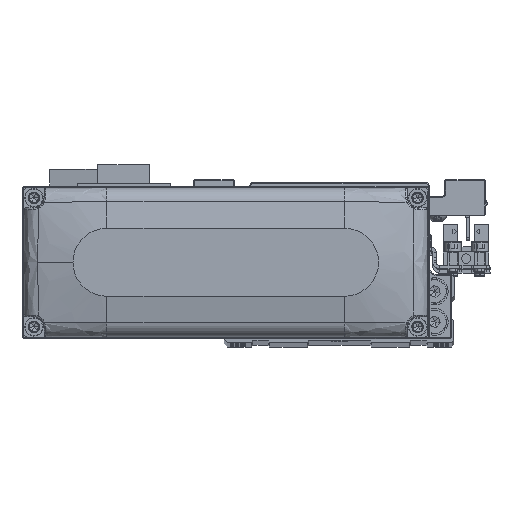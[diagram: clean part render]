
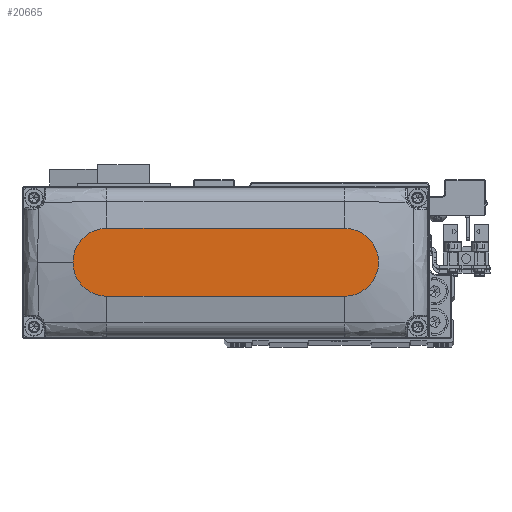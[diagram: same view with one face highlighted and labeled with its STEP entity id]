
A CAD part, top view. The second image highlights one B-rep face of the part: STEP entity #20665.
In plain terms, the highlighted planar face has unit normal (0, 0, 1).
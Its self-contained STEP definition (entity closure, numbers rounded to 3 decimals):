
#2024 = EDGE_LOOP ( 'NONE', ( #4253, #20257, #34427, #27681, #5875 ) ) ;
#2316 = AXIS2_PLACEMENT_3D ( 'NONE', #34413, #5677, #18452 ) ;
#4253 = ORIENTED_EDGE ( 'NONE', *, *, #22038, .T. ) ;
#4622 = AXIS2_PLACEMENT_3D ( 'NONE', #13061, #25867, #38631 ) ;
#5308 = VERTEX_POINT ( 'NONE', #13190 ) ;
#5677 = DIRECTION ( 'NONE',  ( 0., 0., 1. ) ) ;
#5875 = ORIENTED_EDGE ( 'NONE', *, *, #24709, .T. ) ;
#6563 = CARTESIAN_POINT ( 'NONE',  ( 0., 0., 28. ) ) ;
#6642 = DIRECTION ( 'NONE',  ( 0., 0., 1. ) ) ;
#7803 = DIRECTION ( 'NONE',  ( -1., 0., 0. ) ) ;
#8074 = VERTEX_POINT ( 'NONE', #9768 ) ;
#9768 = CARTESIAN_POINT ( 'NONE',  ( 35., 10., 28. ) ) ;
#10246 = LINE ( 'NONE', #23056, #10857 ) ;
#10553 = CARTESIAN_POINT ( 'NONE',  ( 45., 0., 28. ) ) ;
#10857 = VECTOR ( 'NONE', #35848, 1000. ) ;
#12575 = EDGE_CURVE ( 'NONE', #20395, #23986, #22694, .T. ) ;
#13061 = CARTESIAN_POINT ( 'NONE',  ( -35., 0., 28. ) ) ;
#13190 = CARTESIAN_POINT ( 'NONE',  ( 35., -10., 28. ) ) ;
#15606 = VERTEX_POINT ( 'NONE', #10553 ) ;
#17652 = VECTOR ( 'NONE', #7803, 1000. ) ;
#18452 = DIRECTION ( 'NONE',  ( 1., 0., 0. ) ) ;
#19350 = DIRECTION ( 'NONE',  ( 0., 0., 1. ) ) ;
#19437 = DIRECTION ( 'NONE',  ( 1., 0., 0. ) ) ;
#20257 = ORIENTED_EDGE ( 'NONE', *, *, #12575, .T. ) ;
#20393 = CIRCLE ( 'NONE', #2316, 10. ) ;
#20395 = VERTEX_POINT ( 'NONE', #36581 ) ;
#20665 = ADVANCED_FACE ( 'NONE', ( #22507 ), #35301, .T. ) ;
#21128 = AXIS2_PLACEMENT_3D ( 'NONE', #35381, #6642, #19437 ) ;
#22038 = EDGE_CURVE ( 'NONE', #8074, #20395, #23759, .T. ) ;
#22507 = FACE_OUTER_BOUND ( 'NONE', #2024, .T. ) ;
#22694 = CIRCLE ( 'NONE', #4622, 10. ) ;
#23056 = CARTESIAN_POINT ( 'NONE',  ( -35., -10., 28. ) ) ;
#23759 = LINE ( 'NONE', #36534, #17652 ) ;
#23986 = VERTEX_POINT ( 'NONE', #29453 ) ;
#24709 = EDGE_CURVE ( 'NONE', #15606, #8074, #39184, .T. ) ;
#25867 = DIRECTION ( 'NONE',  ( 0., 0., 1. ) ) ;
#26065 = EDGE_CURVE ( 'NONE', #23986, #5308, #10246, .T. ) ;
#27681 = ORIENTED_EDGE ( 'NONE', *, *, #28017, .T. ) ;
#28017 = EDGE_CURVE ( 'NONE', #5308, #15606, #20393, .T. ) ;
#29453 = CARTESIAN_POINT ( 'NONE',  ( -35., -10., 28. ) ) ;
#32155 = DIRECTION ( 'NONE',  ( 1., 0., 0. ) ) ;
#34413 = CARTESIAN_POINT ( 'NONE',  ( 35., 0., 28. ) ) ;
#34427 = ORIENTED_EDGE ( 'NONE', *, *, #26065, .T. ) ;
#35301 = PLANE ( 'NONE',  #37624 ) ;
#35381 = CARTESIAN_POINT ( 'NONE',  ( 35., 0., 28. ) ) ;
#35848 = DIRECTION ( 'NONE',  ( 1., 0., 0. ) ) ;
#36534 = CARTESIAN_POINT ( 'NONE',  ( -35., 10., 28. ) ) ;
#36581 = CARTESIAN_POINT ( 'NONE',  ( -35., 10., 28. ) ) ;
#37624 = AXIS2_PLACEMENT_3D ( 'NONE', #6563, #19350, #32155 ) ;
#38631 = DIRECTION ( 'NONE',  ( 1., 0., 0. ) ) ;
#39184 = CIRCLE ( 'NONE', #21128, 10. ) ;
